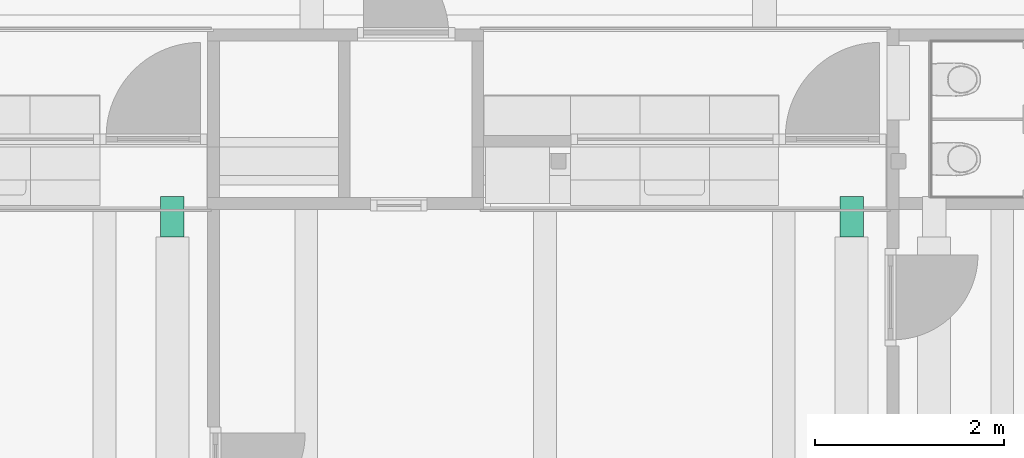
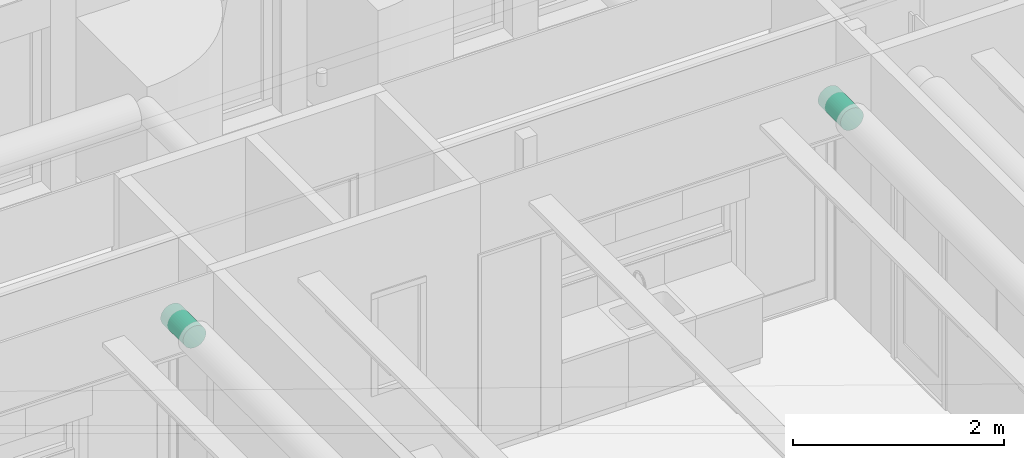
# One storey, part 80 of 128: 2 distribution control elements.
"""IFC2X3 building model written with IfcOpenShell, lengths in millimetres."""

from ifc_helpers import new_model, entity, si_unit, converted_unit, derived_unit, direction, frame, origin, origin_2d_with_axis, place, context, subcontext, project, spatial, circle, extrude, source, transform, mapped, material, type_object, type_shapes, element, save


model = new_model("IFC2X3")

# Units and contexts
model_context = context("Model", 3, precision=0.01, world=origin(), true_north=direction((6.123031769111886e-17, 1.0)))
body_context = subcontext(model_context, "Body", "Model", "MODEL_VIEW")
ifc_project = project(units=[si_unit("LENGTHUNIT", "METRE", prefix="MILLI"), si_unit("AREAUNIT", "SQUARE_METRE"), si_unit("VOLUMEUNIT", "CUBIC_METRE"), converted_unit("PLANEANGLEUNIT", "DEGREE", entity("IfcRatioMeasure", 0.017453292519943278), si_unit("PLANEANGLEUNIT", "RADIAN"), dimensions=[0, 0, 0, 0, 0, 0, 0]), si_unit("MASSUNIT", "GRAM", prefix="KILO"), derived_unit("MASSDENSITYUNIT", [(si_unit("MASSUNIT", "GRAM", prefix="KILO"), 1), (si_unit("LENGTHUNIT", "METRE"), -3)]), derived_unit("IONCONCENTRATIONUNIT", [(si_unit("MASSUNIT", "GRAM", prefix="KILO"), 1), (si_unit("LENGTHUNIT", "METRE"), -3)]), derived_unit("MOMENTOFINERTIAUNIT", [(si_unit("LENGTHUNIT", "METRE"), 4)]), si_unit("TIMEUNIT", "SECOND"), si_unit("FREQUENCYUNIT", "HERTZ"), si_unit("THERMODYNAMICTEMPERATUREUNIT", "DEGREE_CELSIUS"), derived_unit("THERMALTRANSMITTANCEUNIT", [(si_unit("MASSUNIT", "GRAM", prefix="KILO"), 1), (si_unit("THERMODYNAMICTEMPERATUREUNIT", "KELVIN"), -1), (si_unit("TIMEUNIT", "SECOND"), -3)]), derived_unit("THERMALCONDUCTANCEUNIT", [(si_unit("MASSUNIT", "GRAM", prefix="KILO"), 1), (si_unit("THERMODYNAMICTEMPERATUREUNIT", "KELVIN"), -1), (si_unit("TIMEUNIT", "SECOND"), -3), (si_unit("LENGTHUNIT", "METRE"), 1)]), derived_unit("VOLUMETRICFLOWRATEUNIT", [(si_unit("LENGTHUNIT", "METRE"), 3), (si_unit("TIMEUNIT", "SECOND"), -1)]), derived_unit("MASSFLOWRATEUNIT", [(si_unit("MASSUNIT", "GRAM", prefix="KILO"), 1), (si_unit("TIMEUNIT", "SECOND"), -1)]), derived_unit("ROTATIONALFREQUENCYUNIT", [(si_unit("TIMEUNIT", "SECOND"), -1)]), si_unit("ELECTRICCURRENTUNIT", "AMPERE"), si_unit("ELECTRICVOLTAGEUNIT", "VOLT"), si_unit("POWERUNIT", "WATT"), si_unit("FORCEUNIT", "NEWTON", prefix="KILO"), si_unit("ILLUMINANCEUNIT", "LUX"), si_unit("LUMINOUSFLUXUNIT", "LUMEN"), si_unit("LUMINOUSINTENSITYUNIT", "CANDELA"), derived_unit("USERDEFINED", [(si_unit("MASSUNIT", "GRAM", prefix="KILO"), -1), (si_unit("LENGTHUNIT", "METRE"), -2), (si_unit("TIMEUNIT", "SECOND"), 3), (si_unit("LUMINOUSFLUXUNIT", "LUMEN"), 1)]), derived_unit("USERDEFINED", [(si_unit("MASSUNIT", "GRAM", prefix="KILO"), 1), (si_unit("TIMEUNIT", "SECOND"), -3), (si_unit("LENGTHUNIT", "METRE"), 3), (si_unit("ELECTRICCURRENTUNIT", "AMPERE"), -2)]), derived_unit("SOUNDPOWERUNIT", [(si_unit("MASSUNIT", "GRAM", prefix="KILO"), 1), (si_unit("TIMEUNIT", "SECOND"), -3), (si_unit("LENGTHUNIT", "METRE"), 2)]), derived_unit("SOUNDPRESSUREUNIT", [(si_unit("MASSUNIT", "GRAM", prefix="KILO"), 1), (si_unit("LENGTHUNIT", "METRE"), -1), (si_unit("TIMEUNIT", "SECOND"), -2)]), derived_unit("LINEARVELOCITYUNIT", [(si_unit("LENGTHUNIT", "METRE"), 1), (si_unit("TIMEUNIT", "SECOND"), -1)]), si_unit("PRESSUREUNIT", "PASCAL"), derived_unit("USERDEFINED", [(si_unit("MASSUNIT", "GRAM", prefix="KILO"), 1), (si_unit("LENGTHUNIT", "METRE"), -2), (si_unit("TIMEUNIT", "SECOND"), -2)]), derived_unit("LINEARFORCEUNIT", [(si_unit("MASSUNIT", "GRAM", prefix="KILO"), 1), (si_unit("TIMEUNIT", "SECOND"), -2)]), derived_unit("PLANARFORCEUNIT", [(si_unit("MASSUNIT", "GRAM", prefix="KILO"), 1), (si_unit("LENGTHUNIT", "METRE"), -1), (si_unit("TIMEUNIT", "SECOND"), -2)]), derived_unit("SPECIFICHEATCAPACITYUNIT", [(si_unit("THERMODYNAMICTEMPERATUREUNIT", "KELVIN"), -1), (si_unit("LENGTHUNIT", "METRE"), 2), (si_unit("TIMEUNIT", "SECOND"), -2)]), derived_unit("HEATINGVALUEUNIT", [(si_unit("LENGTHUNIT", "METRE"), 2), (si_unit("TIMEUNIT", "SECOND"), -2)]), derived_unit("VAPORPERMEABILITYUNIT", [(si_unit("LENGTHUNIT", "METRE"), -1), (si_unit("TIMEUNIT", "SECOND"), 1)]), derived_unit("DYNAMICVISCOSITYUNIT", [(si_unit("MASSUNIT", "GRAM", prefix="KILO"), 1), (si_unit("TIMEUNIT", "SECOND"), -1), (si_unit("LENGTHUNIT", "METRE"), -1)]), derived_unit("THERMALEXPANSIONCOEFFICIENTUNIT", [(si_unit("THERMODYNAMICTEMPERATUREUNIT", "KELVIN"), -1)]), derived_unit("MODULUSOFELASTICITYUNIT", [(si_unit("MASSUNIT", "GRAM", prefix="KILO"), 1), (si_unit("LENGTHUNIT", "METRE"), -1), (si_unit("TIMEUNIT", "SECOND"), -2)]), derived_unit("ISOTHERMALMOISTURECAPACITYUNIT", [(si_unit("LENGTHUNIT", "METRE"), 3), (si_unit("MASSUNIT", "GRAM", prefix="KILO"), -1)]), derived_unit("MOISTUREDIFFUSIVITYUNIT", [(si_unit("TIMEUNIT", "SECOND"), -1), (si_unit("LENGTHUNIT", "METRE"), 2)])], contexts=[model_context])

# Site, building, storey
site_placement = place(None, frame((0.0, 300.0, 0.0)))
site = spatial("IfcSite", under=ifc_project, at=site_placement, Name="<Kadastrale nummers>", CompositionType="ELEMENT")
building_placement = place(site_placement, origin())
building = spatial("IfcBuilding", under=site, at=building_placement, CompositionType="ELEMENT")
storey_placement = place(building_placement, frame((0.0, 0.0, 3560.0000331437)))
storey = spatial("IfcBuildingStorey", under=building, at=storey_placement, Name="01 eerste verdieping", CompositionType="ELEMENT", Elevation=3560.0000331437)

# Distribution control elements
ifc_material = material(Name="<Unnamed>")
controller_type = type_object("IfcControllerType", Name="57_luchtbehandelings buis:Ø 250 op 2946", PredefinedType="NOTDEFINED", material=ifc_material)
shared_shape = source(origin(), body_context, "Body", "SweptSolid", [
    extrude(circle(Radius=125.00000000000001, at=origin_2d_with_axis()), frame((0.0, 0.0, 2800.0), z_axis=(1.0, 0.0, 0.0), x_axis=(0.0, 1.0, 0.0)), (0.0, 0.0, 1.0), 427.4999999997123),
])
type_shapes(controller_type, [shared_shape])
for number, where, z_axis, x_axis in (
    (1, (16905.0, 44497.499999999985, 90.00000187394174), (0.0, 0.0, 1.0), (0.0, 1.0, 0.0)),
    (2, (24105.0, 44497.499999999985, 90.00000187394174), (0.0, 0.0, 1.0), (0.0, 1.0, 0.0)),
):
    element("IfcDistributionControlElement", number, at=place(storey_placement, frame(where, z_axis=z_axis, x_axis=x_axis)), inside=storey, type_object=controller_type, material=ifc_material, Name="57_luchtbehandelings buis:Ø 250 op 2946", ObjectType="57_luchtbehandelings buis:Ø 250 op 2946", context=body_context, shape_type="MappedRepresentation", body=[
        mapped(shared_shape, transform((0.0, 0.0, 0.0), scale=1.0)),
    ])

save(model, "model.ifc")
